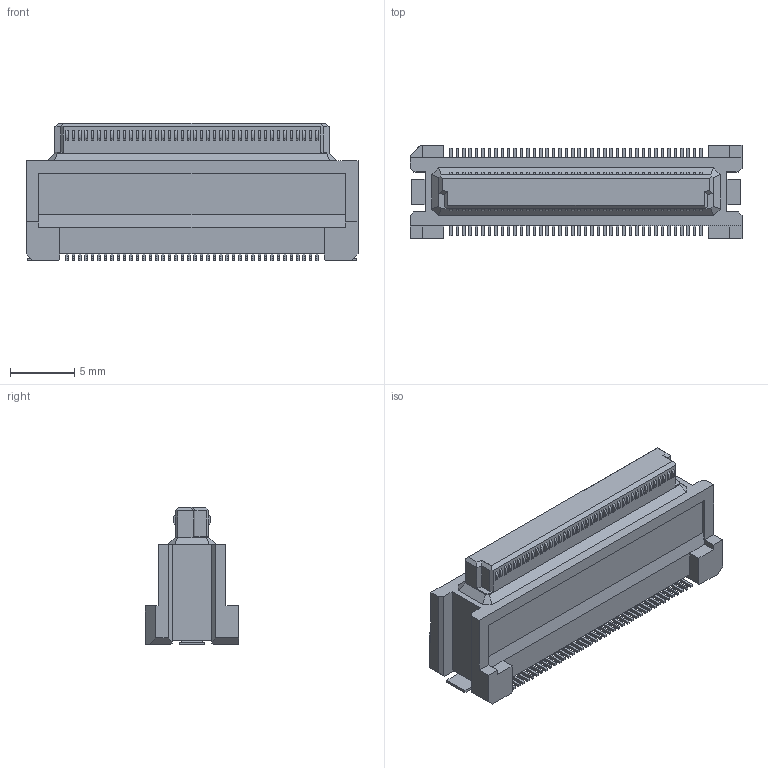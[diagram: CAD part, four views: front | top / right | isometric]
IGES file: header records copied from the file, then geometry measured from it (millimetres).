
Start section: Elysium IGES Interface
Global section: file name: C:\Users\1354\Desktop\DY10-080FS-2.igs; native system: Creo Elements/Direct Modeling 19.0F  14-Feb-2017; preprocessor: Creo Element/Direct IGES_3D V2.2; author: Unknown; organization: Unknown; date: 20171128.110722; units: millimetre
Bounding box: 25.9 x 7.3 x 10.73 mm (x, y, z)
Volume: 1051.2 mm3; surface area: 1093.4 mm2
Topology: 1 solids, 1 shells, 1196 faces, 3293 edges, 2182 vertices
Faces by surface type: bspline 1196
